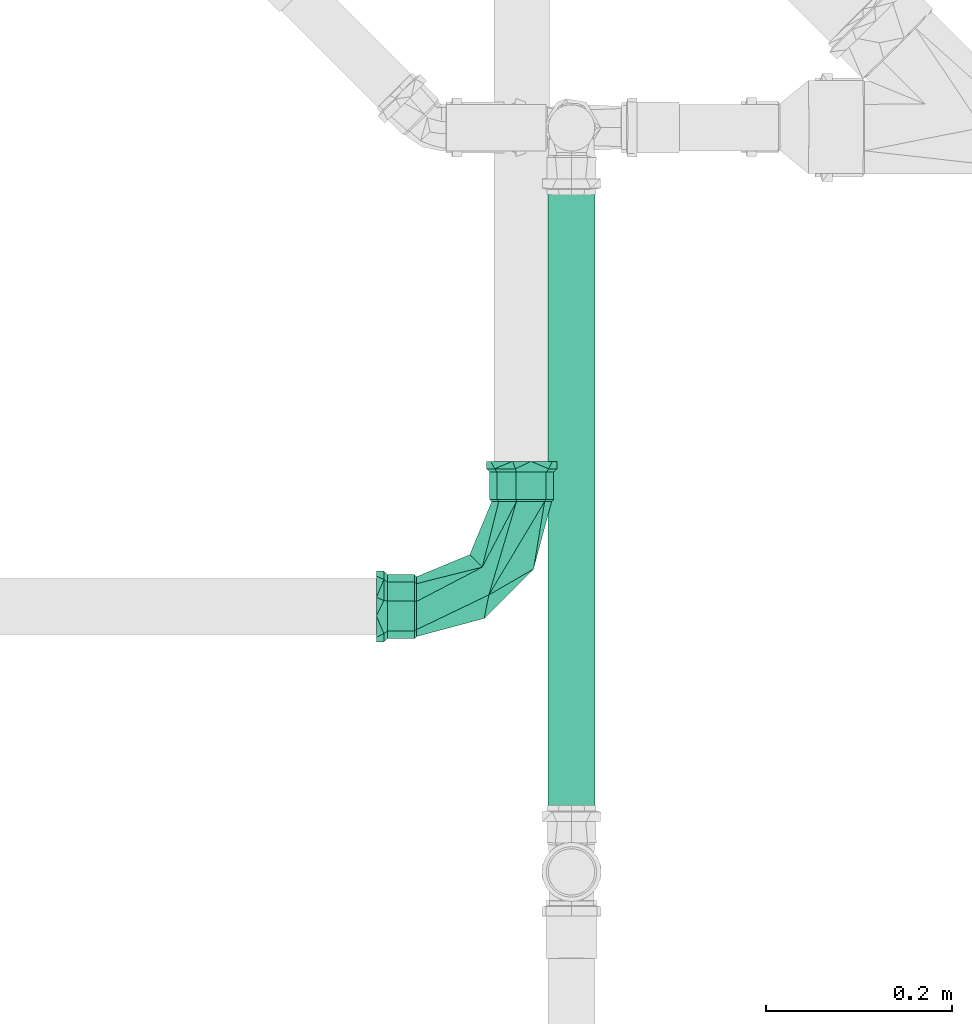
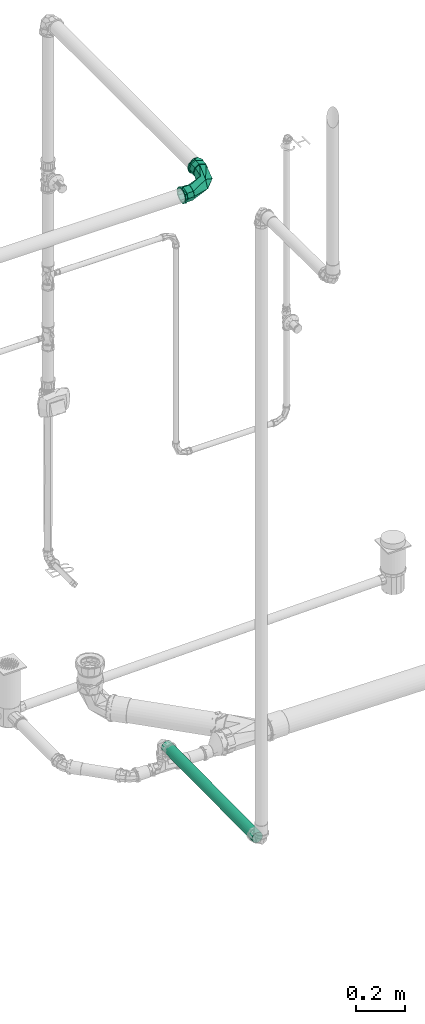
# One storey, part 276 of 589: 1 flow fitting, 1 flow segment.
"""IFC2X3 building model written with IfcOpenShell, lengths in millimetres."""

from ifc_helpers import new_model, entity, si_unit, converted_unit, derived_unit, direction, frame, frame_2d, origin, place, context, subcontext, project, spatial, circle, extrude, faceted_brep, source, transform, mapped, material, type_object, type_shapes, element, save


model = new_model("IFC2X3")

# Units and contexts
model_context = context("Model", 3, precision=0.01, world=origin(), true_north=direction((6.123031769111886e-17, 1.0)))
body_context = subcontext(model_context, "Body", "Model", "MODEL_VIEW")
ifc_project = project(units=[si_unit("LENGTHUNIT", "METRE", prefix="MILLI"), si_unit("AREAUNIT", "SQUARE_METRE"), si_unit("VOLUMEUNIT", "CUBIC_METRE"), converted_unit("PLANEANGLEUNIT", "DEGREE", entity("IfcRatioMeasure", 0.017453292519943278), si_unit("PLANEANGLEUNIT", "RADIAN"), dimensions=[0, 0, 0, 0, 0, 0, 0]), si_unit("MASSUNIT", "GRAM", prefix="KILO"), derived_unit("MASSDENSITYUNIT", [(si_unit("MASSUNIT", "GRAM", prefix="KILO"), 1), (si_unit("LENGTHUNIT", "METRE"), -3)]), derived_unit("IONCONCENTRATIONUNIT", [(si_unit("MASSUNIT", "GRAM", prefix="KILO"), 1), (si_unit("LENGTHUNIT", "METRE"), -3)]), derived_unit("MOMENTOFINERTIAUNIT", [(si_unit("LENGTHUNIT", "METRE"), 4)]), si_unit("TIMEUNIT", "SECOND"), si_unit("FREQUENCYUNIT", "HERTZ"), si_unit("THERMODYNAMICTEMPERATUREUNIT", "DEGREE_CELSIUS"), derived_unit("THERMALTRANSMITTANCEUNIT", [(si_unit("MASSUNIT", "GRAM", prefix="KILO"), 1), (si_unit("THERMODYNAMICTEMPERATUREUNIT", "KELVIN"), -1), (si_unit("TIMEUNIT", "SECOND"), -3)]), derived_unit("THERMALCONDUCTANCEUNIT", [(si_unit("MASSUNIT", "GRAM", prefix="KILO"), 1), (si_unit("THERMODYNAMICTEMPERATUREUNIT", "KELVIN"), -1), (si_unit("TIMEUNIT", "SECOND"), -3), (si_unit("LENGTHUNIT", "METRE"), 1)]), derived_unit("VOLUMETRICFLOWRATEUNIT", [(si_unit("LENGTHUNIT", "METRE"), 3), (si_unit("TIMEUNIT", "SECOND"), -1)]), derived_unit("MASSFLOWRATEUNIT", [(si_unit("MASSUNIT", "GRAM", prefix="KILO"), 1), (si_unit("TIMEUNIT", "SECOND"), -1)]), derived_unit("ROTATIONALFREQUENCYUNIT", [(si_unit("TIMEUNIT", "SECOND"), -1)]), si_unit("ELECTRICCURRENTUNIT", "AMPERE"), si_unit("ELECTRICVOLTAGEUNIT", "VOLT"), si_unit("POWERUNIT", "WATT"), si_unit("FORCEUNIT", "NEWTON", prefix="KILO"), si_unit("ILLUMINANCEUNIT", "LUX"), si_unit("LUMINOUSFLUXUNIT", "LUMEN"), si_unit("LUMINOUSINTENSITYUNIT", "CANDELA"), derived_unit("USERDEFINED", [(si_unit("MASSUNIT", "GRAM", prefix="KILO"), -1), (si_unit("LENGTHUNIT", "METRE"), -2), (si_unit("TIMEUNIT", "SECOND"), 3), (si_unit("LUMINOUSFLUXUNIT", "LUMEN"), 1)]), derived_unit("USERDEFINED", [(si_unit("MASSUNIT", "GRAM", prefix="KILO"), 1), (si_unit("TIMEUNIT", "SECOND"), -3), (si_unit("LENGTHUNIT", "METRE"), 3), (si_unit("ELECTRICCURRENTUNIT", "AMPERE"), -2)]), derived_unit("SOUNDPOWERUNIT", [(si_unit("MASSUNIT", "GRAM", prefix="KILO"), 1), (si_unit("TIMEUNIT", "SECOND"), -3), (si_unit("LENGTHUNIT", "METRE"), 2)]), derived_unit("SOUNDPRESSUREUNIT", [(si_unit("MASSUNIT", "GRAM", prefix="KILO"), 1), (si_unit("LENGTHUNIT", "METRE"), -1), (si_unit("TIMEUNIT", "SECOND"), -2)]), derived_unit("LINEARVELOCITYUNIT", [(si_unit("LENGTHUNIT", "METRE"), 1), (si_unit("TIMEUNIT", "SECOND"), -1)]), si_unit("PRESSUREUNIT", "PASCAL"), derived_unit("USERDEFINED", [(si_unit("MASSUNIT", "GRAM", prefix="KILO"), 1), (si_unit("LENGTHUNIT", "METRE"), -2), (si_unit("TIMEUNIT", "SECOND"), -2)]), derived_unit("LINEARFORCEUNIT", [(si_unit("MASSUNIT", "GRAM", prefix="KILO"), 1), (si_unit("TIMEUNIT", "SECOND"), -2)]), derived_unit("PLANARFORCEUNIT", [(si_unit("MASSUNIT", "GRAM", prefix="KILO"), 1), (si_unit("LENGTHUNIT", "METRE"), -1), (si_unit("TIMEUNIT", "SECOND"), -2)]), derived_unit("SPECIFICHEATCAPACITYUNIT", [(si_unit("THERMODYNAMICTEMPERATUREUNIT", "KELVIN"), -1), (si_unit("LENGTHUNIT", "METRE"), 2), (si_unit("TIMEUNIT", "SECOND"), -2)]), derived_unit("HEATINGVALUEUNIT", [(si_unit("LENGTHUNIT", "METRE"), 2), (si_unit("TIMEUNIT", "SECOND"), -2)]), derived_unit("VAPORPERMEABILITYUNIT", [(si_unit("LENGTHUNIT", "METRE"), -1), (si_unit("TIMEUNIT", "SECOND"), 1)]), derived_unit("DYNAMICVISCOSITYUNIT", [(si_unit("MASSUNIT", "GRAM", prefix="KILO"), 1), (si_unit("TIMEUNIT", "SECOND"), -1), (si_unit("LENGTHUNIT", "METRE"), -1)]), derived_unit("THERMALEXPANSIONCOEFFICIENTUNIT", [(si_unit("THERMODYNAMICTEMPERATUREUNIT", "KELVIN"), -1)]), derived_unit("MODULUSOFELASTICITYUNIT", [(si_unit("MASSUNIT", "GRAM", prefix="KILO"), 1), (si_unit("LENGTHUNIT", "METRE"), -1), (si_unit("TIMEUNIT", "SECOND"), -2)]), derived_unit("ISOTHERMALMOISTURECAPACITYUNIT", [(si_unit("LENGTHUNIT", "METRE"), 3), (si_unit("MASSUNIT", "GRAM", prefix="KILO"), -1)]), derived_unit("MOISTUREDIFFUSIVITYUNIT", [(si_unit("TIMEUNIT", "SECOND"), -1), (si_unit("LENGTHUNIT", "METRE"), 2)])], contexts=[model_context])

# Site, building, storey
site_placement = place(None, origin())
site = spatial("IfcSite", under=ifc_project, at=site_placement, Name="Default", CompositionType="ELEMENT")
building_placement = place(site_placement, origin())
building = spatial("IfcBuilding", under=site, at=building_placement, CompositionType="ELEMENT")
storey_placement = place(building_placement, frame((0.0, 0.0, 100.0)))
storey = spatial("IfcBuildingStorey", under=building, at=storey_placement, Name="TÉRREO", CompositionType="ELEMENT", Elevation=100.0)

# Flow segment
pipe_segment_type = type_object("IfcPipeSegmentType", Name="Tipos de tubos:PVC Esgoto Série Normal", PredefinedType="NOTDEFINED")
flow_segment_placement = place(storey_placement, origin())
element("IfcFlowSegment", 1, at=flow_segment_placement, inside=storey, type_object=pipe_segment_type, Name="Tipos de tubos:PVC Esgoto Série Normal", ObjectType="Tipos de tubos:PVC Esgoto Série Normal", context=body_context, shape_type="SweptSolid", body=[
    extrude(circle(Radius=25.0, at=frame_2d((0.0, -1.691895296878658e-14), x_axis=(1.0, 0.0))), frame((6108.335906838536, 5930.766862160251, -127.68540272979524), z_axis=(0.0, 0.9999500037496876, 0.009999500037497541), x_axis=(-1.0, 0.0, 0.0)), (0.0, 0.0, 1.0), 735.8999918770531),
])

# Flow fitting
ifc_material = material(Name="PVC Marrom")
pipe_fitting_type = type_object("IfcPipeFittingType", Name="PVC Marrom Soldável_Curva 45°_90°_Rodrigo MEP:Curva", PredefinedType="NOTDEFINED", material=ifc_material)
shared_shape = source(origin(), body_context, "Body", "Brep", [
    faceted_brep([(-156.0, -9.83512371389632, -36.70518139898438), (-156.0, -7.764571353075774, -28.977774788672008), (-156.0, 7.764571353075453, -28.977774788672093), (-156.0, -32.90896534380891, -19.0), (-156.0, 9.835123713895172, -36.70518139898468), (-156.0, -25.980762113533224, -15.0), (-156.0, -30.0, 0.0), (-156.0, -38.0, 0.0), (-156.0, -25.98076211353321, 15.0), (-156.0, -32.908965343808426, 19.0), (-156.0, -7.764571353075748, 28.977774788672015), (-156.0, -9.835123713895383, 36.705181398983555), (-156.0, 7.764571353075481, 28.977774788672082), (-156.0, 9.835123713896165, 36.70518139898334), (-156.0, 25.98076211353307, 15.0), (-156.0, 32.90896534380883, 19.0), (-156.0, 38.0, 0.0), (-156.0, 30.0, 0.0), (-156.0, 32.908965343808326, -19.0), (-156.0, 25.980762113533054, -15.0), (-148.0, 38.0, 0.0), (-148.0, 29.109098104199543, 24.42663316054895), (-148.0, 6.596820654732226, 37.42301373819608), (-148.0, -29.111756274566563, 24.4234650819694), (-148.0, -38.0, 0.0), (-148.0, -29.111756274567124, -24.42346508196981), (-148.0, -6.600893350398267, -37.4222955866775), (-148.0, 29.10909810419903, -24.42663316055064), (-144.2999999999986, -26.279625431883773, 22.04248822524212), (-144.29999999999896, 5.952366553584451, 33.77956974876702), (-144.29999999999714, -34.300000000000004, 0.0), (-144.29999999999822, 26.274095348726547, 22.04907965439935), (-144.29999999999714, 34.299999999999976, 0.0), (-144.2999999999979, 26.274095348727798, -22.04907965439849), (-144.29999999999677, -5.960839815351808, -33.778075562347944), (-144.29999999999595, -26.27962543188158, -22.042488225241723), (-115.0, 26.274095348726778, 22.049079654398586), (-115.0, 34.3, 0.0), (-115.0, 5.952366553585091, 33.779569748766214), (-115.0, -34.300000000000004, 0.0), (-115.0, -26.279625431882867, 22.042488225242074), (-115.0, -10.163629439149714, 27.91102898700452), (-115.0, -26.279625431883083, -22.04248822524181), (-115.0, -5.960839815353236, -33.77807556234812), (-115.0, 26.27409534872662, -22.049079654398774), (-115.0, 10.15662776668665, -27.91357760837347), (-112.7999999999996, -5.579259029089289, -31.662191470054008), (-112.79999999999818, 32.15000000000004, 0.0), (-112.79999999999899, 24.632360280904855, -20.66081622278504), (-112.7999999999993, 9.526550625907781, -26.161503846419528), (-112.7999999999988, -24.627176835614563, -20.666994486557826), (-112.79999999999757, -32.150000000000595, 0.0), (-112.79999999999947, -24.627176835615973, 20.666994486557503), (-112.7999999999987, -9.519987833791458, 26.163892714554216), (-112.79999999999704, 24.63236028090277, 20.660816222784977), (-112.79999999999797, 5.587201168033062, 31.660790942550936), (-40.3249999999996, -12.730382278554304, 0.0), (-42.35955575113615, 42.35955569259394, 29.323249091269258), (-35.207214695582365, 12.588058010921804, 28.97056842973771), (-5.587201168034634, 112.80000000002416, 31.660790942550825), (-24.63236028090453, 112.80000000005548, 20.6608162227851), (-55.77183809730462, 55.771838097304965, 0.0), (24.6271768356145, 112.80000000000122, 20.666994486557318), (9.519987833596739, 112.80000000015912, 26.16389271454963), (12.730382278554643, 40.324999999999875, 0.0), (32.150000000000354, 112.79999999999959, 0.0), (-32.14999999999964, 112.79999999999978, 0.0), (-50.98644489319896, 50.95842318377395, -19.75753622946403), (-40.35477901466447, 36.90290716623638, -31.169914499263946), (-19.35153028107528, 19.351530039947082, -25.670296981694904), (24.627176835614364, 112.79999999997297, -20.66699448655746), (-24.63236028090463, 112.79999999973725, -20.660816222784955), (-9.526550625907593, 112.79999999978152, -26.161503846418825), (5.579259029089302, 112.79999999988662, -31.662191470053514), (26.274095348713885, 115.0, -22.04907965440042), (34.29999999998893, 115.0, 0.0), (5.952366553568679, 115.0, -33.77956974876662), (-26.2796254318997, 115.0, -22.0424882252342), (-10.163629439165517, 115.0, -27.91102898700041), (-34.3000000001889, 115.0, 0.0), (-26.279625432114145, 115.0, 22.042488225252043), (-5.96083981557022, 115.0, 33.778075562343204), (26.27409534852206, 115.0, 22.049079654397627), (10.156627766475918, 115.0, 27.913577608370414), (34.29999999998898, 144.2999999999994, 0.0), (26.274095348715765, 144.30000000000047, 22.049079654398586), (-5.960839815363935, 144.30000000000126, 33.77807556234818), (-26.279625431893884, 144.30000000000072, 22.042488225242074), (-34.30000000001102, 144.29999999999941, 0.0), (-26.279625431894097, 144.29999999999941, -22.04248822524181), (5.952366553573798, 144.2999999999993, -33.779569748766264), (26.2740953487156, 144.2999999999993, -22.049079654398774), (-29.109098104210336, 148.0, 24.426633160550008), (-38.0, 148.0, 0.0), (-6.5968206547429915, 148.0, 37.423013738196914), (29.111756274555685, 148.0, 24.423465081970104), (38.0, 148.0, 0.0), (29.111756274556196, 148.0, -24.42346508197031), (6.600893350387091, 148.0, -37.42229558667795), (-29.109098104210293, 148.0, -24.42663316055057), (-9.8351237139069, 156.0, -36.705181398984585), (-7.764571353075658, 156.0, -28.977774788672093), (7.76457135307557, 156.0, -28.977774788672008), (-32.90896534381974, 156.0, -19.0), (9.835123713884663, 156.0, -36.705181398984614), (-25.98076211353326, 156.0, -15.0), (-30.0, 156.0, 0.0), (-38.0, 156.0, 0.0), (-25.980762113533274, 156.0, 15.0), (-32.908965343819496, 156.0, 19.0), (-7.764571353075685, 156.0, 28.977774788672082), (-9.835123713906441, 156.0, 36.705181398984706), (7.764571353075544, 156.0, 28.977774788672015), (9.835123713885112, 156.0, 36.705181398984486), (25.980762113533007, 156.0, 15.0), (32.9089653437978, 156.0, 19.0), (38.0, 156.0, 0.0), (30.0, 156.0, 0.0), (32.908965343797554, 156.0, -19.0), (25.98076211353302, 156.0, -15.0), (-115.0, -25.980762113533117, -15.0), (-115.0, -30.0, 0.0), (-115.0, -25.98076211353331, 15.0), (-115.0, -7.764571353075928, 28.977774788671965), (-115.0, 7.764571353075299, 28.977774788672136), (-115.0, 25.98076211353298, 15.0), (-115.0, 30.0, 0.0), (-115.0, 25.980762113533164, -15.0), (-115.0, 7.76457135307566, -28.977774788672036), (-115.0, -7.764571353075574, -28.97777478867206), (7.764571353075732, 115.0, 28.977774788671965), (-7.764571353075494, 115.0, 28.977774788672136), (-7.764571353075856, 115.0, -28.977774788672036), (7.764571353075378, 115.0, -28.97777478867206), (25.980762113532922, 115.0, -15.0), (-25.98076211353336, 115.0, -15.0), (-30.0, 115.0, 0.0), (-25.980762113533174, 115.0, 15.0), (25.980762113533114, 115.0, 15.0), (30.0, 115.0, 0.0)], [[[0, 1, 2]], [[1, 0, 3]], [[2, 4, 0]], [[3, 5, 1]], [[3, 6, 5]], [[6, 3, 7]], [[8, 6, 7]], [[8, 7, 9]], [[9, 10, 8]], [[9, 11, 10]], [[10, 11, 12]], [[13, 12, 11]], [[13, 14, 12]], [[14, 13, 15]], [[16, 14, 15]], [[17, 14, 16]], [[18, 17, 16]], [[18, 19, 17]], [[19, 18, 4]], [[4, 2, 19]], [[16, 15, 20]], [[15, 21, 20]], [[21, 15, 13]], [[21, 13, 22]], [[23, 11, 9]], [[24, 9, 7]], [[11, 23, 22]], [[23, 9, 24]], [[11, 22, 13]], [[7, 3, 24]], [[3, 25, 24]], [[25, 3, 0]], [[25, 0, 26]], [[27, 4, 18]], [[20, 18, 16]], [[4, 27, 26]], [[27, 18, 20]], [[4, 26, 0]], [[28, 29, 23]], [[30, 28, 24]], [[24, 28, 23]], [[29, 22, 23]], [[31, 32, 21]], [[21, 22, 31]], [[20, 21, 32]], [[31, 22, 29]], [[32, 33, 27]], [[27, 20, 32]], [[26, 27, 33]], [[33, 34, 26]], [[35, 30, 24]], [[35, 25, 34]], [[25, 35, 24]], [[34, 25, 26]], [[32, 31, 36, 37]], [[36, 31, 29, 38]], [[28, 30, 39, 40]], [[28, 40, 41, 38, 29]], [[30, 35, 42, 39]], [[42, 35, 34, 43]], [[33, 32, 37, 44]], [[33, 44, 45, 43, 34]], [[45, 46, 43]], [[47, 48, 37]], [[37, 48, 44]], [[44, 49, 45]], [[50, 51, 42]], [[44, 48, 49]], [[42, 43, 50]], [[39, 42, 51]], [[46, 45, 49]], [[50, 43, 46]], [[51, 52, 40]], [[40, 39, 51]], [[52, 41, 40]], [[52, 53, 41]], [[53, 38, 41]], [[54, 47, 37]], [[54, 36, 55]], [[36, 54, 37]], [[38, 53, 55]], [[55, 36, 38]], [[51, 56, 52]], [[57, 55, 58]], [[59, 60, 57]], [[57, 54, 55]], [[47, 54, 61]], [[58, 62, 63, 59]], [[58, 56, 64]], [[56, 58, 52]], [[64, 65, 62]], [[57, 58, 59]], [[58, 55, 53, 52]], [[66, 61, 60]], [[61, 54, 57]], [[61, 57, 60]], [[64, 62, 58]], [[66, 67, 61]], [[68, 69, 46]], [[69, 50, 46]], [[51, 50, 56]], [[56, 50, 69]], [[64, 69, 70]], [[47, 61, 67]], [[66, 71, 67]], [[68, 71, 72, 73]], [[48, 47, 67]], [[69, 68, 73]], [[64, 56, 69]], [[73, 70, 69]], [[70, 65, 64]], [[68, 46, 49, 48]], [[67, 68, 48]], [[71, 68, 67]], [[65, 70, 74, 75]], [[76, 74, 70, 73]], [[77, 78, 76, 73, 72, 71]], [[71, 66, 79, 77]], [[66, 60, 80, 79]], [[81, 80, 60, 59]], [[82, 83, 81, 59, 63, 62]], [[62, 65, 75, 82]], [[84, 85, 82, 75]], [[82, 85, 86, 81, 83]], [[87, 88, 79, 80]], [[87, 80, 81, 86]], [[88, 89, 77, 79]], [[77, 89, 90, 76, 78]], [[91, 84, 75, 74]], [[91, 74, 76, 90]], [[87, 86, 92]], [[88, 87, 93]], [[93, 87, 92]], [[86, 94, 92]], [[85, 84, 95]], [[95, 94, 85]], [[96, 95, 84]], [[85, 94, 86]], [[84, 91, 97]], [[97, 96, 84]], [[98, 97, 91]], [[91, 90, 98]], [[89, 88, 93]], [[89, 99, 90]], [[99, 89, 93]], [[90, 99, 98]], [[100, 101, 102]], [[101, 100, 103]], [[102, 104, 100]], [[103, 105, 101]], [[103, 106, 105]], [[106, 103, 107]], [[108, 106, 107]], [[108, 107, 109]], [[109, 110, 108]], [[109, 111, 110]], [[110, 111, 112]], [[113, 112, 111]], [[113, 114, 112]], [[114, 113, 115]], [[116, 114, 115]], [[117, 114, 116]], [[118, 117, 116]], [[118, 119, 117]], [[119, 118, 104]], [[104, 102, 119]], [[116, 115, 96]], [[115, 95, 96]], [[95, 115, 113]], [[95, 113, 94]], [[92, 111, 109]], [[93, 109, 107]], [[111, 92, 94]], [[92, 109, 93]], [[111, 94, 113]], [[107, 103, 93]], [[103, 99, 93]], [[99, 103, 100]], [[99, 100, 98]], [[97, 104, 118]], [[96, 118, 116]], [[104, 97, 98]], [[97, 118, 96]], [[104, 98, 100]], [[120, 121, 122, 123, 124, 125, 126, 127, 128, 129]], [[122, 121, 6, 8]], [[123, 122, 8, 10]], [[10, 12, 124, 123]], [[130, 131, 110, 112]], [[125, 124, 12, 14]], [[126, 125, 14, 17]], [[127, 126, 17, 19]], [[128, 127, 19, 2]], [[2, 1, 129, 128]], [[132, 133, 102, 101]], [[120, 129, 1, 5]], [[121, 120, 5, 6]], [[134, 133, 132, 135, 136, 137, 131, 130, 138, 139]], [[114, 117, 139, 138]], [[112, 114, 138, 130]], [[108, 110, 131, 137]], [[106, 108, 137, 136]], [[105, 106, 136, 135]], [[101, 105, 135, 132]], [[119, 102, 133, 134]], [[117, 119, 134, 139]]]),
])
type_shapes(pipe_fitting_type, [shared_shape])
flow_fitting_placement = place(storey_placement, frame((6054.818506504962, 6184.222132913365, 2970.0)))
element("IfcFlowFitting", 2, at=flow_fitting_placement, inside=storey, type_object=pipe_fitting_type, material=ifc_material, Name="PVC Marrom Soldável_Curva 45°_90°_Rodrigo MEP:Curva", ObjectType="PVC Marrom Soldável_Curva 45°_90°_Rodrigo MEP:Curva", context=body_context, shape_type="MappedRepresentation", body=[
    mapped(shared_shape, transform((0.0, 0.0, 0.0), scale=1.0)),
])

save(model, "model.ifc")
